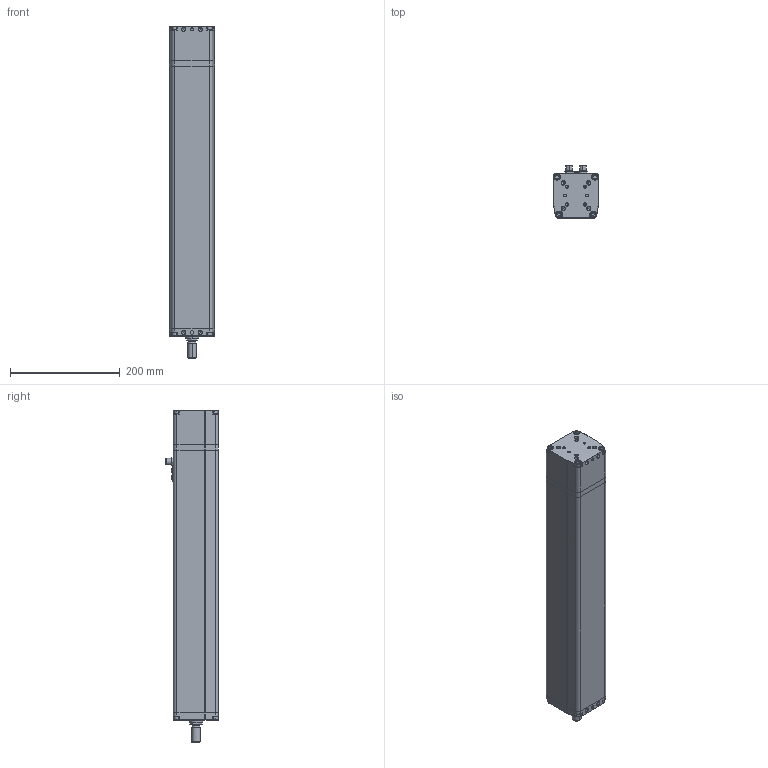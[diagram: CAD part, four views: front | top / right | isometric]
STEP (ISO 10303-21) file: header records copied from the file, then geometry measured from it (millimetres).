
FILE_DESCRIPTION (( 'STEP AP203' ), '1' );
FILE_NAME ('CTC-080-K__-____-_.step', '2023-09-29T09:47:10', ( '' ), ( '' ), 'SwSTEP 2.0', 'SolidWorks 2020', '' );
FILE_SCHEMA (( 'CONFIG_CONTROL_DESIGN' ));
Length unit declared in the file: millimetre
Products named in the file (4): CTC-080_housing_Hub_0400; CTC-080-K__-____-_; CTC-080_Aufsatz-A_M16x1.5; CTC-080_Schubrohr_Hub 0400
Assembly tree (3 placements, depth 2):
  CTC-080-K__-____-_
    CTC-080_housing_Hub_0400
    CTC-080_Schubrohr_Hub 0400
    CTC-080_Aufsatz-A_M16x1.5
Bounding box: 82 x 96.3 x 604 mm (x, y, z)
Volume: 3296511.1 mm3; surface area: 405939.2 mm2
Topology: 30 solids, 30 shells, 796 faces, 1775 edges, 1093 vertices
Faces by surface type: cylinder 305, plane 297, cone 114, torus 72, sphere 8
Entity records: 22351 total; most frequent: DIRECTION 4147, CARTESIAN_POINT 3798, ORIENTED_EDGE 3486, EDGE_CURVE 1743, AXIS2_PLACEMENT_3D 1638, VERTEX_POINT 1093, EDGE_LOOP 890, VECTOR 871
